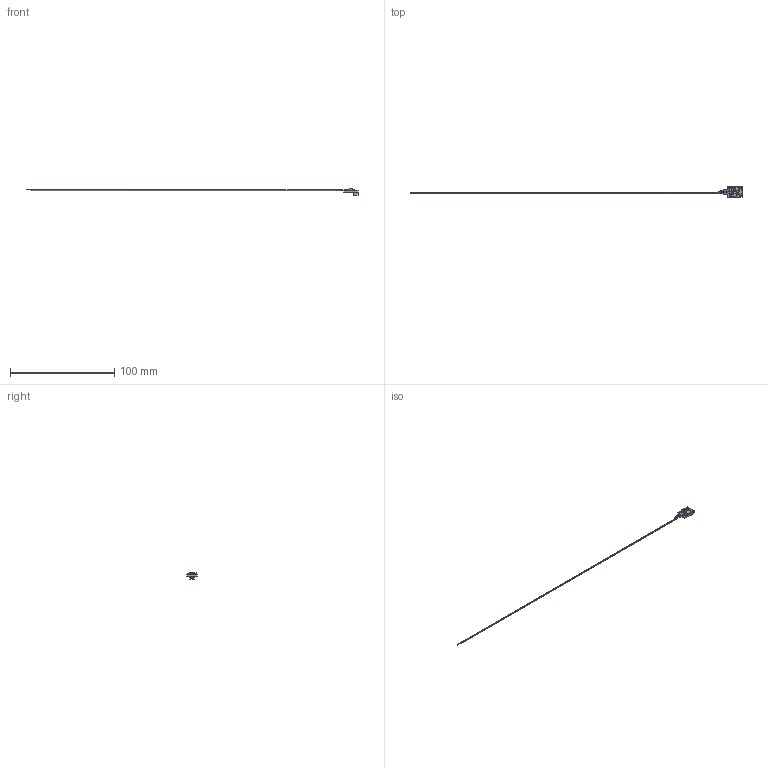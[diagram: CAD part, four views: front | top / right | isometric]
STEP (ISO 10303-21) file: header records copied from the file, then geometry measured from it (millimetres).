
FILE_DESCRIPTION((''),'2;1');
FILE_NAME('300X1MM_COB00','2024-06-20T15:25:37',('qinghui.yi'),(''),'CREO PARAMETRIC BY PTC INC, 2019164','CREO PARAMETRIC BY PTC INC, 2019164','');
FILE_SCHEMA(('CONFIG_CONTROL_DESIGN','SHAPE_APPEARANCE_LAYERS_GROUPS'));
Length unit declared in the file: millimetre
Products named in the file (1): 300X1MM_COB00
Bounding box: 318.7 x 9.9 x 6.4 mm (x, y, z)
Volume: 533 mm3; surface area: 1529.1 mm2
Topology: 1 solids, 1 shells, 697 faces, 1910 edges, 1272 vertices
Faces by surface type: plane 471, extrusion 185, cylinder 39, revolution 2
Entity records: 30210 total; most frequent: CARTESIAN_POINT 12765, ORIENTED_EDGE 3814, DIRECTION 2789, EDGE_CURVE 1907, VECTOR 1625, LINE 1440, VERTEX_POINT 1266, EDGE_LOOP 789
